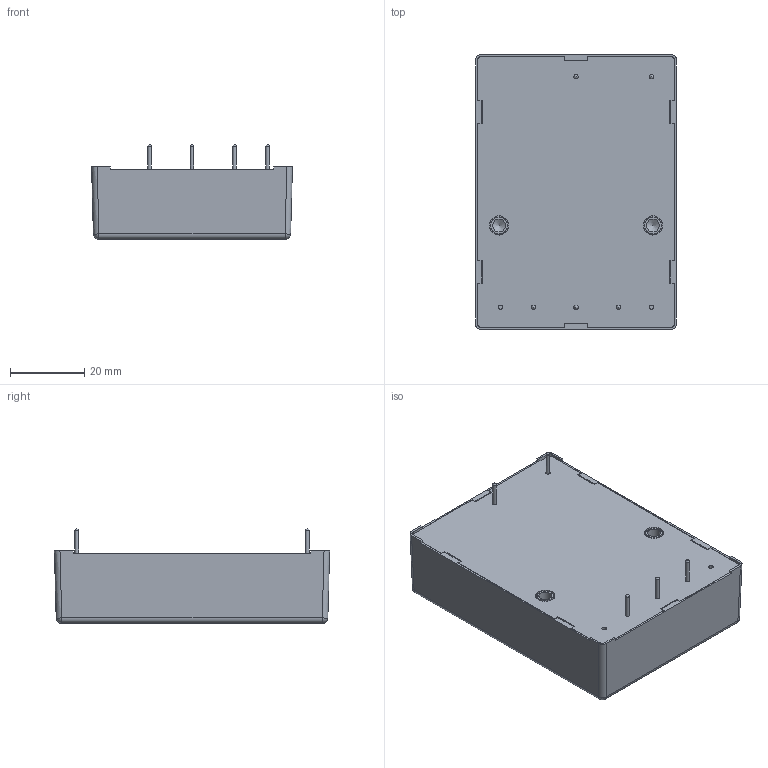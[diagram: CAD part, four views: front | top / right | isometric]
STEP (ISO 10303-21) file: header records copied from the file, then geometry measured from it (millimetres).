
FILE_DESCRIPTION(/* description */ (''),/* implementation_level */ '2;1');
FILE_NAME(/* name */ 'C:\Users\Calliope\Desktop\TMM 24 (Dual Output).stp',/* time_stamp */ '2021-08-03T13:33:00+08:00',/* author */ ('Calliope'),/* organization */ (''),/* preprocessor_version */ 'ST-DEVELOPER v16.1',/* originating_system */ 'Autodesk Inventor 2016',/* authorisation */ '');
FILE_SCHEMA (('AUTOMOTIVE_DESIGN { 1 0 10303 214 3 1 1 }'));
Length unit declared in the file: millimetre
Products named in the file (1): TMM 24 (Dual Output)
Bounding box: 54.04 x 74.04 x 25.5 mm (x, y, z)
Volume: 73670.8 mm3; surface area: 13394.9 mm2
Topology: 1 solids, 1 shells, 298 faces, 843 edges, 554 vertices
Faces by surface type: plane 242, cylinder 45, sphere 9, cone 2
Full cylindrical faces by diameter (mm): 1 x5, 1.2 x7, 3.459 x2, 4.4 x2, 5.2 x2
Entity records: 9571 total; most frequent: CARTESIAN_POINT 1639, ORIENTED_EDGE 1600, DIRECTION 1488, EDGE_CURVE 800, LINE 710, VECTOR 710, VERTEX_POINT 540, AXIS2_PLACEMENT_3D 389
